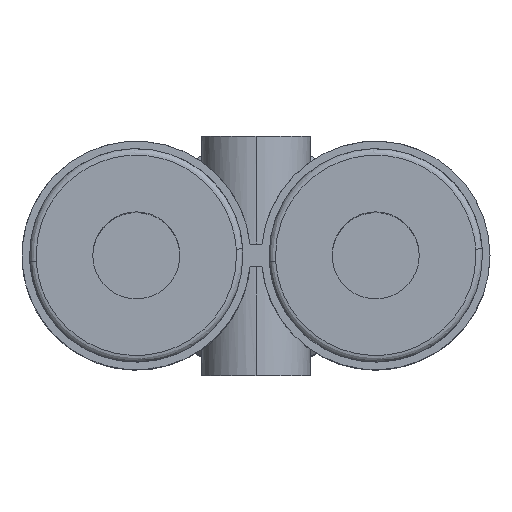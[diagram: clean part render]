
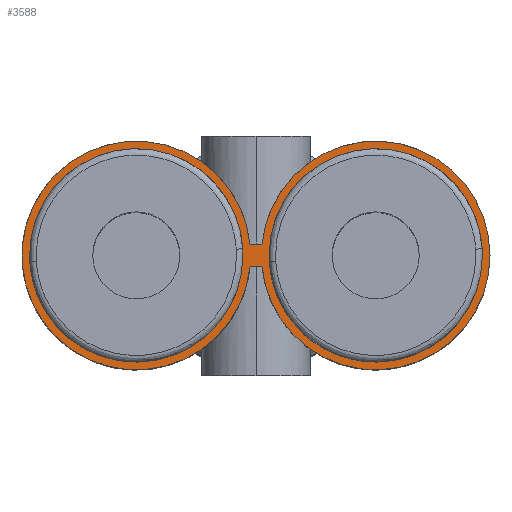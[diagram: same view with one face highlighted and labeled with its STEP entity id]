
A CAD part, top view. The second image highlights one B-rep face of the part: STEP entity #3588.
In plain terms, the highlighted planar face has unit normal (0, 0, 1).
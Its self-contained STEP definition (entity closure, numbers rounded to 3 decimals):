
#88 = CIRCLE ( 'NONE', #4086, 5.25 ) ;
#89 = FACE_OUTER_BOUND ( 'NONE', #330, .T. ) ;
#104 = CARTESIAN_POINT ( 'NONE',  ( -2.5, 0., 13. ) ) ;
#124 = DIRECTION ( 'NONE',  ( 0., 0., 1. ) ) ;
#297 = VECTOR ( 'NONE', #5815, 1000. ) ;
#330 = EDGE_LOOP ( 'NONE', ( #2879, #5720, #1841, #2483, #1388 ) ) ;
#439 = AXIS2_PLACEMENT_3D ( 'NONE', #6189, #4198, #2199 ) ;
#452 = CARTESIAN_POINT ( 'NONE',  ( -5.5, 0., 13. ) ) ;
#458 = CIRCLE ( 'NONE', #1314, 5.25 ) ;
#541 = ORIENTED_EDGE ( 'NONE', *, *, #947, .T. ) ;
#622 = CIRCLE ( 'NONE', #1676, 3. ) ;
#626 = CARTESIAN_POINT ( 'NONE',  ( 0.274, -0.5, 13. ) ) ;
#722 = DIRECTION ( 'NONE',  ( 1., 0., 0. ) ) ;
#781 = CARTESIAN_POINT ( 'NONE',  ( 0.274, 0.5, 13. ) ) ;
#914 = LINE ( 'NONE', #946, #4234 ) ;
#946 = CARTESIAN_POINT ( 'NONE',  ( 11.293, -0.5, 13. ) ) ;
#947 = EDGE_CURVE ( 'NONE', #2571, #1225, #1355, .T. ) ;
#962 = EDGE_CURVE ( 'NONE', #3203, #6513, #622, .T. ) ;
#1225 = VERTEX_POINT ( 'NONE', #1445 ) ;
#1314 = AXIS2_PLACEMENT_3D ( 'NONE', #452, #5502, #5431 ) ;
#1355 = CIRCLE ( 'NONE', #5349, 3. ) ;
#1388 = ORIENTED_EDGE ( 'NONE', *, *, #3349, .T. ) ;
#1445 = CARTESIAN_POINT ( 'NONE',  ( 2.5, 0., 13. ) ) ;
#1539 = CARTESIAN_POINT ( 'NONE',  ( -0.274, 0.5, 13. ) ) ;
#1580 = PLANE ( 'NONE',  #4364 ) ;
#1615 = VERTEX_POINT ( 'NONE', #1539 ) ;
#1676 = AXIS2_PLACEMENT_3D ( 'NONE', #2682, #3240, #5783 ) ;
#1689 = CARTESIAN_POINT ( 'NONE',  ( 0.274, 0.5, 13. ) ) ;
#1841 = ORIENTED_EDGE ( 'NONE', *, *, #4579, .F. ) ;
#1857 = CARTESIAN_POINT ( 'NONE',  ( -0.274, -0.5, 13. ) ) ;
#2013 = DIRECTION ( 'NONE',  ( 1., 0., 0. ) ) ;
#2199 = DIRECTION ( 'NONE',  ( 1., 0., 0. ) ) ;
#2249 = DIRECTION ( 'NONE',  ( 0., 0., -1. ) ) ;
#2299 = DIRECTION ( 'NONE',  ( 0., 0., -1. ) ) ;
#2356 = VERTEX_POINT ( 'NONE', #626 ) ;
#2372 = CARTESIAN_POINT ( 'NONE',  ( 10.75, 0., 13. ) ) ;
#2483 = ORIENTED_EDGE ( 'NONE', *, *, #3460, .F. ) ;
#2571 = VERTEX_POINT ( 'NONE', #2711 ) ;
#2613 = FACE_BOUND ( 'NONE', #4724, .T. ) ;
#2682 = CARTESIAN_POINT ( 'NONE',  ( -5.5, 0., 13. ) ) ;
#2711 = CARTESIAN_POINT ( 'NONE',  ( 8.5, 0., 13. ) ) ;
#2879 = ORIENTED_EDGE ( 'NONE', *, *, #4843, .T. ) ;
#2947 = EDGE_CURVE ( 'NONE', #1225, #2571, #4437, .T. ) ;
#3116 = ORIENTED_EDGE ( 'NONE', *, *, #3851, .T. ) ;
#3203 = VERTEX_POINT ( 'NONE', #104 ) ;
#3240 = DIRECTION ( 'NONE',  ( 0., 0., -1. ) ) ;
#3253 = ORIENTED_EDGE ( 'NONE', *, *, #2947, .T. ) ;
#3349 = EDGE_CURVE ( 'NONE', #5558, #2356, #914, .T. ) ;
#3460 = EDGE_CURVE ( 'NONE', #5558, #1615, #458, .T. ) ;
#3469 = CIRCLE ( 'NONE', #5135, 5.25 ) ;
#3528 = DIRECTION ( 'NONE',  ( 1., 0., 0. ) ) ;
#3588 = ADVANCED_FACE ( '12', ( #2613, #6109, #89 ), #1580, .T. ) ;
#3614 = EDGE_LOOP ( 'NONE', ( #5868, #3116 ) ) ;
#3851 = EDGE_CURVE ( 'NONE', #6513, #3203, #4671, .T. ) ;
#4086 = AXIS2_PLACEMENT_3D ( 'NONE', #5297, #124, #722 ) ;
#4198 = DIRECTION ( 'NONE',  ( 0., 0., -1. ) ) ;
#4234 = VECTOR ( 'NONE', #2013, 1000. ) ;
#4364 = AXIS2_PLACEMENT_3D ( 'NONE', #5158, #6163, #3528 ) ;
#4437 = CIRCLE ( 'NONE', #439, 3. ) ;
#4579 = EDGE_CURVE ( 'NONE', #1615, #6263, #6211, .T. ) ;
#4671 = CIRCLE ( 'NONE', #6275, 3. ) ;
#4724 = EDGE_LOOP ( 'NONE', ( #541, #3253 ) ) ;
#4733 = EDGE_CURVE ( 'NONE', #5915, #6263, #3469, .T. ) ;
#4843 = EDGE_CURVE ( 'NONE', #2356, #5915, #88, .T. ) ;
#4857 = DIRECTION ( 'NONE',  ( 1., 0., 0. ) ) ;
#4958 = CARTESIAN_POINT ( 'NONE',  ( 5.5, 0., 13. ) ) ;
#5135 = AXIS2_PLACEMENT_3D ( 'NONE', #4958, #5335, #4857 ) ;
#5149 = CARTESIAN_POINT ( 'NONE',  ( -8.5, 0., 13. ) ) ;
#5158 = CARTESIAN_POINT ( 'NONE',  ( 11.293, 5.814, 13. ) ) ;
#5181 = CARTESIAN_POINT ( 'NONE',  ( -5.5, 0., 13. ) ) ;
#5297 = CARTESIAN_POINT ( 'NONE',  ( 5.5, 0., 13. ) ) ;
#5335 = DIRECTION ( 'NONE',  ( 0., 0., 1. ) ) ;
#5349 = AXIS2_PLACEMENT_3D ( 'NONE', #6174, #2249, #6238 ) ;
#5431 = DIRECTION ( 'NONE',  ( 1., 0., 0. ) ) ;
#5502 = DIRECTION ( 'NONE',  ( 0., 0., -1. ) ) ;
#5558 = VERTEX_POINT ( 'NONE', #1857 ) ;
#5720 = ORIENTED_EDGE ( 'NONE', *, *, #4733, .T. ) ;
#5783 = DIRECTION ( 'NONE',  ( 1., 0., 0. ) ) ;
#5815 = DIRECTION ( 'NONE',  ( 1., 0., 0. ) ) ;
#5868 = ORIENTED_EDGE ( 'NONE', *, *, #962, .T. ) ;
#5915 = VERTEX_POINT ( 'NONE', #2372 ) ;
#6109 = FACE_BOUND ( 'NONE', #3614, .T. ) ;
#6163 = DIRECTION ( 'NONE',  ( 0., 0., 1. ) ) ;
#6174 = CARTESIAN_POINT ( 'NONE',  ( 5.5, 0., 13. ) ) ;
#6189 = CARTESIAN_POINT ( 'NONE',  ( 5.5, 0., 13. ) ) ;
#6211 = LINE ( 'NONE', #1689, #297 ) ;
#6225 = DIRECTION ( 'NONE',  ( 1., 0., 0. ) ) ;
#6238 = DIRECTION ( 'NONE',  ( 1., 0., 0. ) ) ;
#6263 = VERTEX_POINT ( 'NONE', #781 ) ;
#6275 = AXIS2_PLACEMENT_3D ( 'NONE', #5181, #2299, #6225 ) ;
#6513 = VERTEX_POINT ( 'NONE', #5149 ) ;
